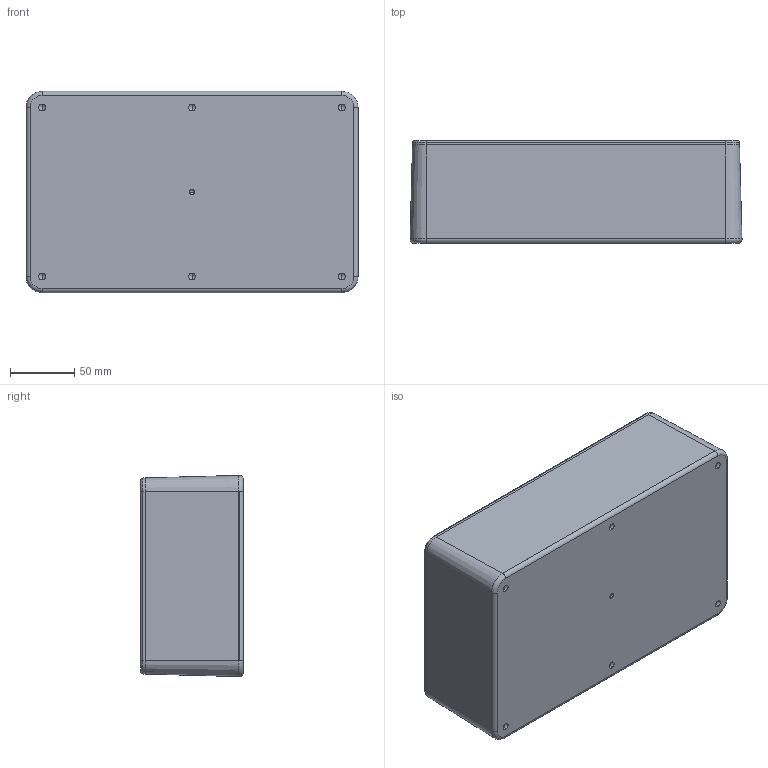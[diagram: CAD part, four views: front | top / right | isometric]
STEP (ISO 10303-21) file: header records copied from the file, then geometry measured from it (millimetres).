
FILE_DESCRIPTION (( 'STEP AP214' ), '1' );
FILE_NAME ('DC-96PMBYT_ASSEMBLY.STEP', '2010-08-20T20:35:31', ( '' ), ( '' ), 'SwSTEP 2.0', 'SolidWorks 2010', '' );
FILE_SCHEMA (( 'AUTOMOTIVE_DESIGN' ));
Length unit declared in the file: inch
Products named in the file (4): DC-96B_DC-96BPMBY; DC-96C_DC-96C-T; SCREWS-DC2-BR; DC-96PMBYT_ASSEMBLY
Assembly tree (8 placements, depth 2):
  DC-96PMBYT_ASSEMBLY
    DC-96C_DC-96C-T
    SCREWS-DC2-BR  x6
    DC-96B_DC-96BPMBY
Bounding box: 257.82 x 79.5 x 156.22 mm (x, y, z)
Volume: 494120.7 mm3; surface area: 296376.4 mm2
Topology: 14 solids, 14 shells, 605 faces, 1394 edges, 900 vertices
Faces by surface type: plane 227, cylinder 162, cone 160, torus 28, sphere 28
Entity records: 15075 total; most frequent: DIRECTION 2556, CARTESIAN_POINT 2431, ORIENTED_EDGE 2088, AXIS2_PLACEMENT_3D 1067, EDGE_CURVE 1044, VERTEX_POINT 670, CIRCLE 586, EDGE_LOOP 572
